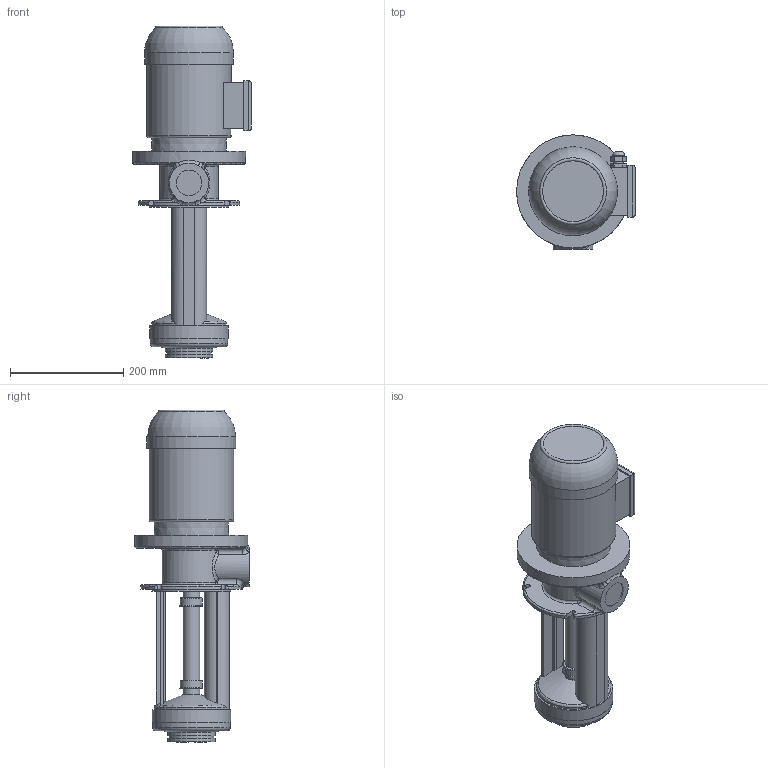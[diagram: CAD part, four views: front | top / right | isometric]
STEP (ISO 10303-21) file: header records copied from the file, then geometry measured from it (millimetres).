
FILE_DESCRIPTION(/* description */ ('Unknown'),/* implementation_level */ '2;1');
FILE_NAME(/* name */ 'GPF 270',/* time_stamp */ '2025-06-17T14:08:07+03:00',/* author */ ('Unknown'),/* organization */ ('Unknown'),/* preprocessor_version */ 'ST-DEVELOPER v16.7',/* originating_system */ 'DEX',/* authorisation */ $);
FILE_SCHEMA (('AUTOMOTIVE_DESIGN {1 0 10303 214 3 1 1}'));
Length unit declared in the file: millimetre
Products named in the file (1): GPF 270
Bounding box: 210.5 x 202 x 587.57 mm (x, y, z)
Volume: 7264018.9 mm3; surface area: 401016.8 mm2
Topology: 1 solids, 1 shells, 276 faces, 668 edges, 429 vertices
Faces by surface type: plane 98, bspline 86, cylinder 65, torus 14, cone 13
Full cylindrical faces by diameter (mm): 17 x1, 21.5 x1, 23.451 x1, 29 x3, 33 x2, 35 x2, 39 x2, 40.5 x2, 45 x1, 65.927 x1, 70 x1, 79 x1, 84 x2, 137 x1, 139 x1, 140 x1, 149.426 x1, 200 x1
Entity records: 10644 total; most frequent: CARTESIAN_POINT 4922, ORIENTED_EDGE 1226, DIRECTION 955, EDGE_CURVE 613, VERTEX_POINT 422, EDGE_LOOP 363, FACE_BOUND 363, AXIS2_PLACEMENT_3D 354
